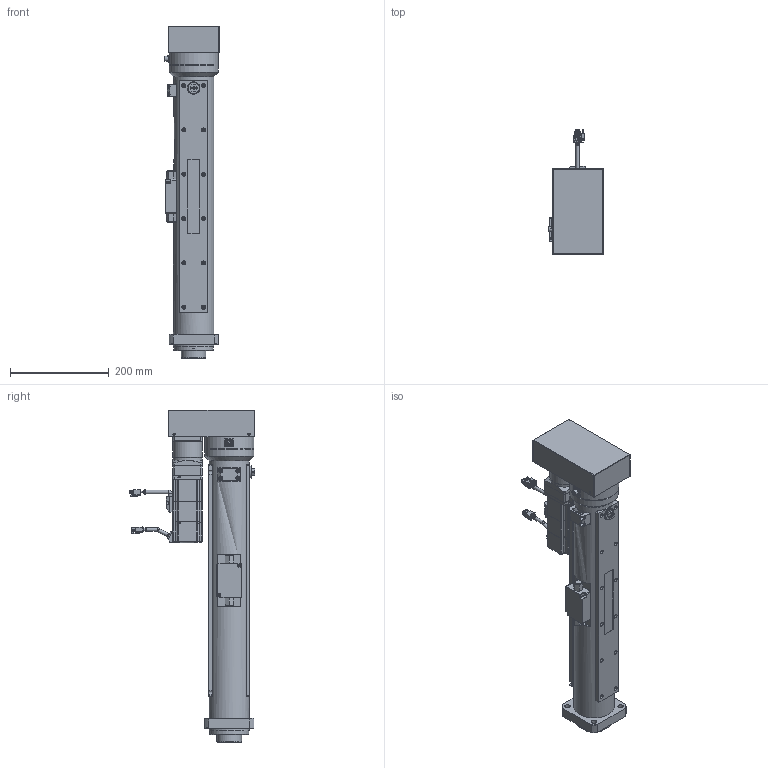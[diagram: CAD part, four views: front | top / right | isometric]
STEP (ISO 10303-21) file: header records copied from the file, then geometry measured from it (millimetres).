
FILE_DESCRIPTION( ('This file contains a STEP AP42 implementation' ,'as created by ZW3D STEP Interface translator.') ,'2;1' );
FILE_NAME( 'OACIS-DW-P003-400-235-A6V200_V20.51_2.stp' ,'26 4 1.173359', (''), ('ZWCAD Software Co.'), 'Version 1.0', 'ZW3D to STEP translator', '' );
FILE_SCHEMA(('AUTOMOTIVE_DESIGN { 1 0 10303 214 1 1 1 1 }'));
Length unit declared in the file: millimetre
Products named in the file (2): 0; OACIS-DW-P003-400-235-A6V200_V20.51_1
Bounding box: 110.7 x 255.3 x 674 mm (x, y, z)
Volume: 3867035.2 mm3; surface area: 833091.2 mm2
Topology: 25 solids, 34 shells, 1902 faces, 4877 edges, 3171 vertices
Faces by surface type: plane 953, cylinder 578, cone 266, torus 55, bspline 28, sphere 22
Full cylindrical faces by diameter (mm): 1 x17, 1.567 x4, 1.754 x1, 1.755 x3, 1.82 x4, 2 x5, 2.2 x4, 2.5 x8, 2.6 x12, 3.2 x4, 3.3 x82, 4.134 x6, 4.2 x24, 4.3 x22, 4.5 x16, 4.917 x4, 5 x26, 5.3 x2, 5.5 x12, 6 x4, 6.5 x10, 6.6 x6, 7 x6, 7.2 x1, 8 x26, 8.5 x2, 9 x4, 10 x2, 10.5 x1, 11 x4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
Entity records: 62159 total; most frequent: CARTESIAN_POINT 12879, DIRECTION 10012, ORIENTED_EDGE 9584, EDGE_CURVE 4792, AXIS2_PLACEMENT_3D 3604, VERTEX_POINT 3171, VECTOR 2804, LINE 2804
